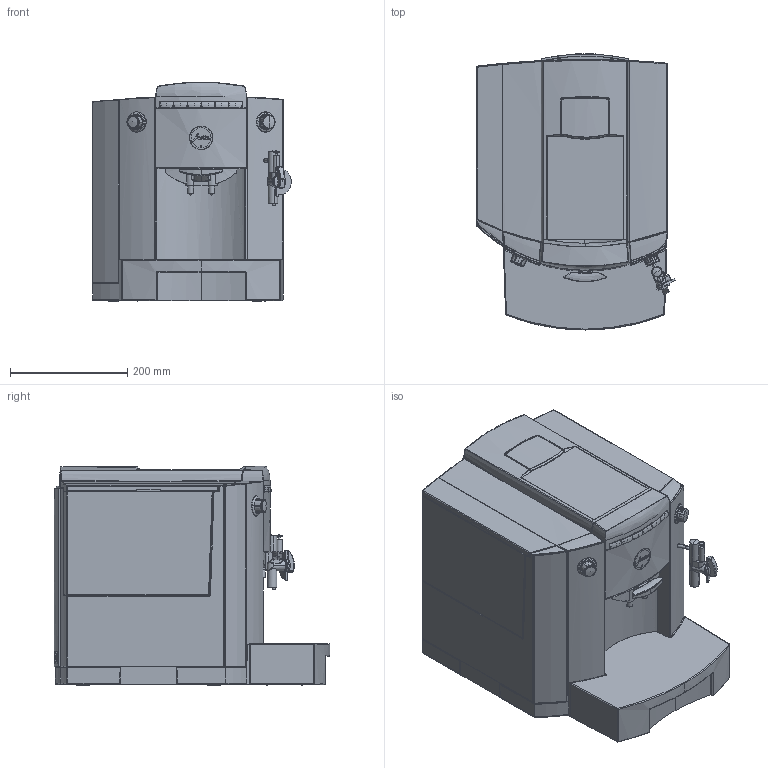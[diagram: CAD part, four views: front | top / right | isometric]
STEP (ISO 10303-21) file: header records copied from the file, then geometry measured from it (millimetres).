
FILE_DESCRIPTION (( 'STEP AP214' ), '1' );
FILE_NAME ('Impressa_XF50_Classic_Design.STEP', '2014-02-05T12:20:27', ( '' ), ( '' ), 'SwSTEP 2.0', 'SolidWorks 2012', '' );
FILE_SCHEMA (( 'AUTOMOTIVE_DESIGN' ));
Products named in the file (1): Impressa_XF50_Classic_Design
Bounding box: 338.78 x 470.36 x 374.23 mm (x, y, z)
Volume: 40110549 mm3; surface area: 805292.2 mm2
Topology: 1 solids, 1 shells, 1998 faces, 5336 edges, 3324 vertices
Faces by surface type: bspline 609, plane 551, cylinder 426, torus 210, cone 119, sphere 83
Entity records: 77755 total; most frequent: CARTESIAN_POINT 34184, ORIENTED_EDGE 10488, DIRECTION 7238, EDGE_CURVE 5244, VERTEX_POINT 3312, AXIS2_PLACEMENT_3D 2734, EDGE_LOOP 2064, FACE_OUTER_BOUND 1998
